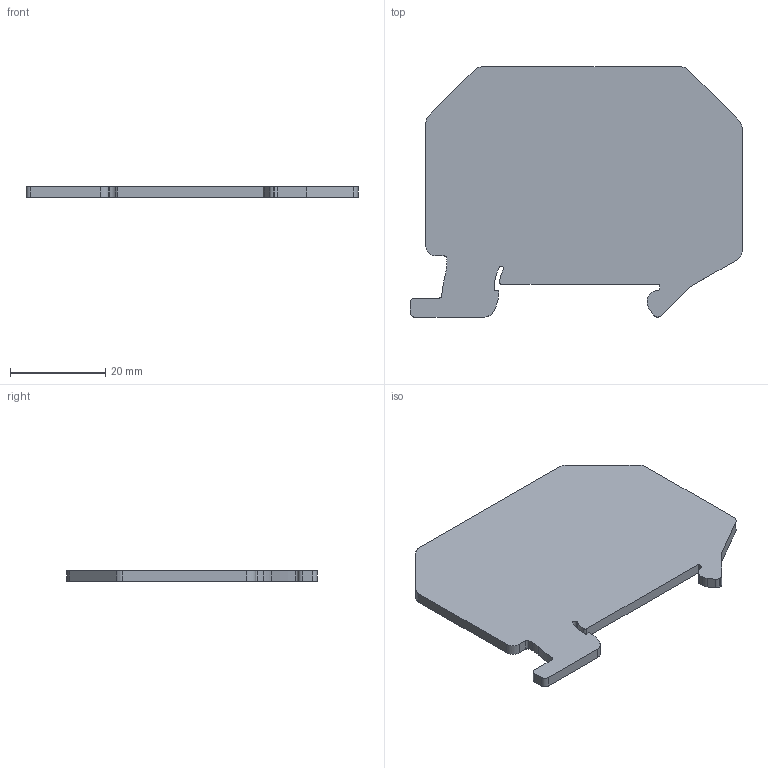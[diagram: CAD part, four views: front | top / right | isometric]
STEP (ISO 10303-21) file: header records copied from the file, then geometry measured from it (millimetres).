
FILE_DESCRIPTION(('OneSpaceDesigner STEP Export'),'2;1');
FILE_NAME('3047196_atp_ut_quattro_select.stp','2005-03-02T 9:16:32',(''),(''),'OneSpace Designer STEP processor (Jan. 2003) for AP203(Solid Model)','OneSpace Designer 12.01C 26-Mar-2004 (C) CoCreate Software GmbH','');
FILE_SCHEMA(('CONFIG_CONTROL_DESIGN'));
Length unit declared in the file: millimetre
Products named in the file (2): 3047196_atp_ut_quattro_select
Assembly tree (1 placements, depth 2):
  3047196_atp_ut_quattro_select
    3047196_atp_ut_quattro_select
Bounding box: 69.75 x 52.55 x 2.2 mm (x, y, z)
Volume: 6564.3 mm3; surface area: 6521.7 mm2
Topology: 1 solids, 1 shells, 53 faces, 153 edges, 102 vertices
Faces by surface type: cylinder 29, plane 24
Entity records: 1942 total; most frequent: ORIENTED_EDGE 306, DIRECTION 303, CARTESIAN_POINT 301, EDGE_CURVE 153, AXIS2_PLACEMENT_3D 104, VERTEX_POINT 102, VECTOR 95, LINE 95
